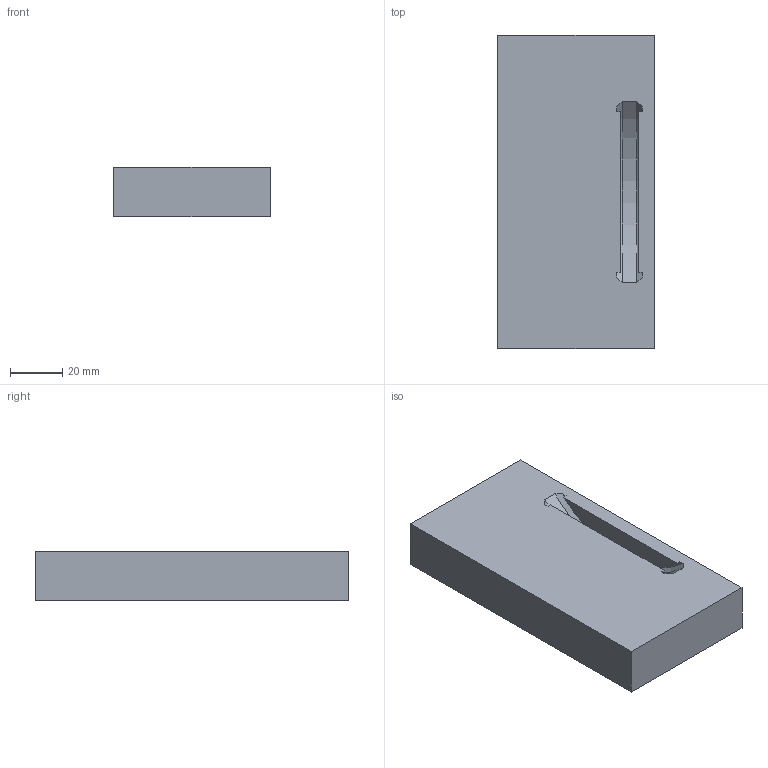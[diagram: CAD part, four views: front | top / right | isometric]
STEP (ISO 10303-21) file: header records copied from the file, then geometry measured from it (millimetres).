
FILE_DESCRIPTION(/* description */ ('Unknown'),/* implementation_level */ '2;1');
FILE_NAME(/* name */ 'Profilnut_Fläche',/* time_stamp */ '2023-06-26T09:38:51+02:00',/* author */ ('Unknown'),/* organization */ ('Unknown'),/* preprocessor_version */ 'ST-DEVELOPER v16.7',/* originating_system */ 'Solid Edge',/* authorisation */ 'Unknown');
FILE_SCHEMA (('AUTOMOTIVE_DESIGN {1 0 10303 214 3 1 1}'));
Length unit declared in the file: millimetre
Products named in the file (1): Profilnut_Fläche
Bounding box: 60 x 120 x 19 mm (x, y, z)
Volume: 131799.6 mm3; surface area: 22859 mm2
Topology: 1 solids, 1 shells, 15 faces, 36 edges, 24 vertices
Faces by surface type: plane 10, cylinder 3, cone 2
Entity records: 474 total; most frequent: CARTESIAN_POINT 88, ORIENTED_EDGE 72, DIRECTION 72, EDGE_CURVE 36, VERTEX_POINT 24, LINE 24, VECTOR 24, AXIS2_PLACEMENT_3D 24
